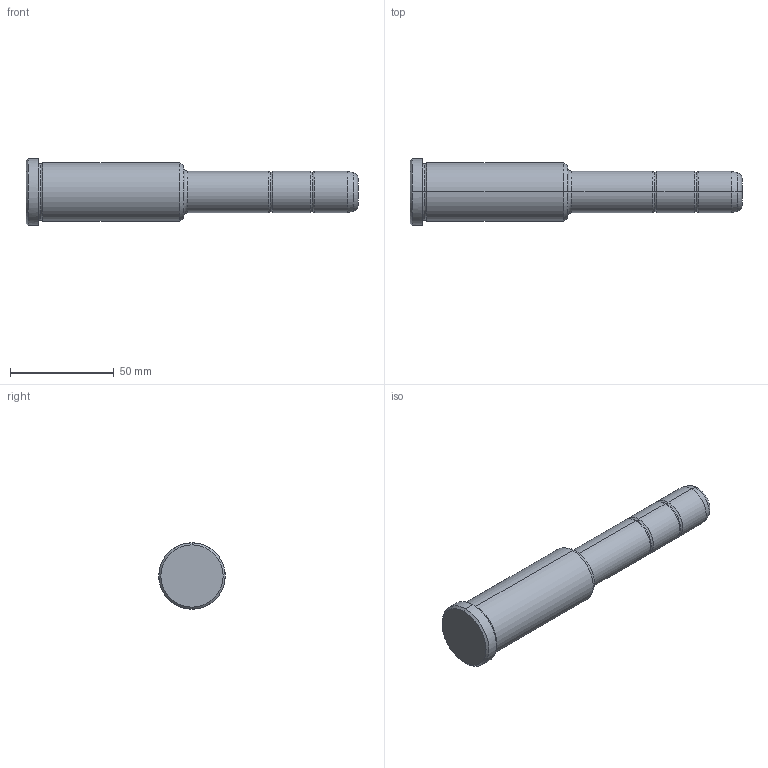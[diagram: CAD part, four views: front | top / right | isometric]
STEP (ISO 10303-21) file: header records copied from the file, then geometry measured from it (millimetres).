
FILE_DESCRIPTION(('CATIA V5 STEP Exchange'),'2;1');
FILE_NAME('C:\Users\Utente\Desktop\IO LAVORO\3D X SITO CF\X SITO\PLASTICA\351\351-20X76X160.stp','2021-08-27T13:09:41+00:00',('none'),('none'),'CATIA Version 5 Release 20 GA (IN-10)','CATIA V5 STEP AP203','none');
FILE_SCHEMA(('CONFIG_CONTROL_DESIGN'));
Length unit declared in the file: millimetre
Products named in the file (1): 351-20X76X160
Bounding box: 160 x 32 x 32 mm (x, y, z)
Volume: 73825.3 mm3; surface area: 13381.2 mm2
Topology: 1 solids, 1 shells, 36 faces, 102 edges, 70 vertices
Faces by surface type: torus 16, cylinder 10, cone 6, plane 4
Entity records: 1292 total; most frequent: CARTESIAN_POINT 321, ORIENTED_EDGE 204, DIRECTION 166, AXIS2_PLACEMENT_3D 115, EDGE_CURVE 102, CIRCLE 78, VERTEX_POINT 70, EDGE_LOOP 38
